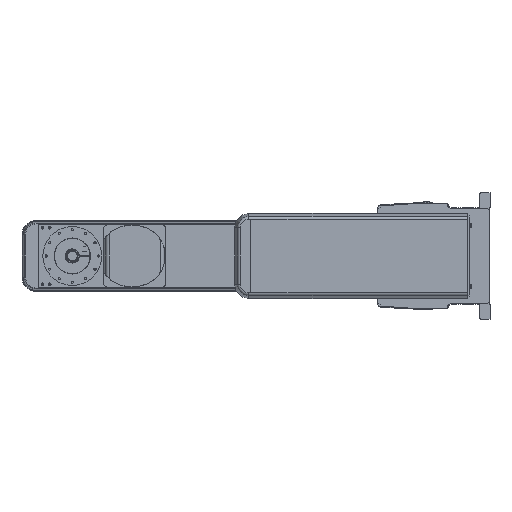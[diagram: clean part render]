
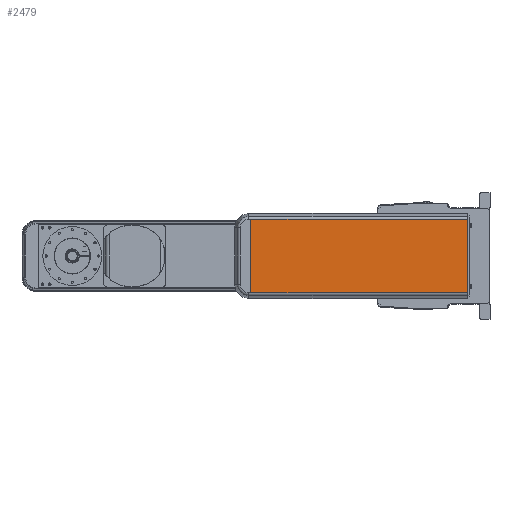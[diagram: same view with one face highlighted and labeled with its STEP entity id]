
A CAD part, front view. The second image highlights one B-rep face of the part: STEP entity #2479.
In plain terms, the highlighted planar face has unit normal (0, -1, 0).
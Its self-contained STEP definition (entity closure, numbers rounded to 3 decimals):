
#2479 = ADVANCED_FACE( '', ( #5666 ), #5667, .F. );
#5666 = FACE_OUTER_BOUND( '', #9908, .T. );
#5667 = PLANE( '', #9909 );
#9908 = EDGE_LOOP( '', ( #16951, #16952, #16953, #16954 ) );
#9909 = AXIS2_PLACEMENT_3D( '', #16955, #16956, #16957 );
#16951 = ORIENTED_EDGE( '', *, *, #24203, .F. );
#16952 = ORIENTED_EDGE( '', *, *, #24204, .T. );
#16953 = ORIENTED_EDGE( '', *, *, #24039, .T. );
#16954 = ORIENTED_EDGE( '', *, *, #23680, .F. );
#16955 = CARTESIAN_POINT( '', ( 68., -71.5, 52.065 ) );
#16956 = DIRECTION( '', ( 0., 1., 0. ) );
#16957 = DIRECTION( '', ( 0., 0., 1. ) );
#23680 = EDGE_CURVE( '', #28664, #28666, #28667, .T. );
#24039 = EDGE_CURVE( '', #29183, #28666, #29184, .T. );
#24203 = EDGE_CURVE( '', #29404, #28664, #29405, .T. );
#24204 = EDGE_CURVE( '', #29404, #29183, #29406, .T. );
#28664 = VERTEX_POINT( '', #35925 );
#28666 = VERTEX_POINT( '', #35928 );
#28667 = LINE( '', #35929, #35930 );
#29183 = VERTEX_POINT( '', #36713 );
#29184 = LINE( '', #36714, #36715 );
#29404 = VERTEX_POINT( '', #37051 );
#29405 = LINE( '', #37052, #37053 );
#29406 = LINE( '', #37054, #37055 );
#35925 = CARTESIAN_POINT( '', ( 58., -71.5, -52.065 ) );
#35928 = CARTESIAN_POINT( '', ( -248., -71.5, -52.065 ) );
#35929 = CARTESIAN_POINT( '', ( 68., -71.5, -52.065 ) );
#35930 = VECTOR( '', #41528, 1000. );
#36713 = CARTESIAN_POINT( '', ( -248., -71.5, 52.065 ) );
#36714 = CARTESIAN_POINT( '', ( -248., -71.5, 52.065 ) );
#36715 = VECTOR( '', #41944, 1000. );
#37051 = CARTESIAN_POINT( '', ( 58., -71.5, 52.065 ) );
#37052 = CARTESIAN_POINT( '', ( 58., -71.5, 52.065 ) );
#37053 = VECTOR( '', #42140, 1000. );
#37054 = CARTESIAN_POINT( '', ( 68., -71.5, 52.065 ) );
#37055 = VECTOR( '', #42141, 1000. );
#41528 = DIRECTION( '', ( -1., 0., 0. ) );
#41944 = DIRECTION( '', ( 0., 0., -1. ) );
#42140 = DIRECTION( '', ( 0., 0., -1. ) );
#42141 = DIRECTION( '', ( -1., 0., 0. ) );
